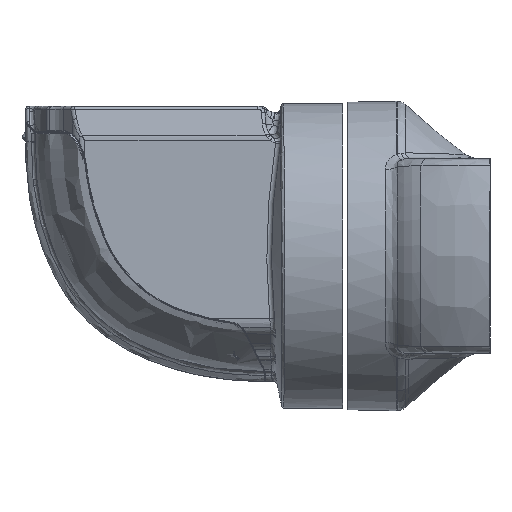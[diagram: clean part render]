
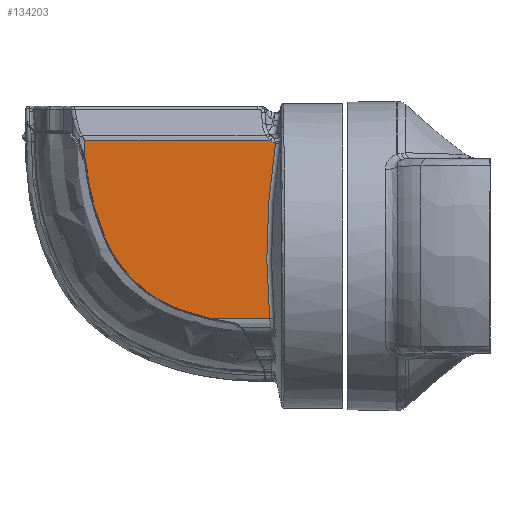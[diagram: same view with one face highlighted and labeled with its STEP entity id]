
A CAD part, left-side view. The second image highlights one B-rep face of the part: STEP entity #134203.
In plain terms, the highlighted planar face has unit normal (-1, 0.009, 0) as drawn and (-0.009, 0, -1) by its records, which use the part's own axes.
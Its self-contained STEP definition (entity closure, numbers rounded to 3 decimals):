
#245 = EDGE_CURVE ( 'NONE', #60284, #105095, #190459, .T. ) ;
#11617 = CARTESIAN_POINT ( 'NONE',  ( 104.904, -149.394, -57.552 ) ) ;
#12527 = CARTESIAN_POINT ( 'NONE',  ( 178.538, -159.142, -58.194 ) ) ;
#13042 = EDGE_CURVE ( 'NONE', #60284, #154520, #142292, .T. ) ;
#13594 = CARTESIAN_POINT ( 'NONE',  ( 104.904, -149.394, -57.552 ) ) ;
#14344 = CARTESIAN_POINT ( 'NONE',  ( 104.79, -150.416, -57.551 ) ) ;
#16485 = ORIENTED_EDGE ( 'NONE', *, *, #13042, .T. ) ;
#20677 = B_SPLINE_CURVE_WITH_KNOTS ( 'NONE', 3,
 ( #185219, #102405, #14344, #13594 ),
 .UNSPECIFIED., .F., .F.,
 ( 4, 4 ),
 ( 0., 1. ),
 .UNSPECIFIED. ) ;
#23437 = B_SPLINE_CURVE_WITH_KNOTS ( 'NONE', 3,
 ( #54227, #109352, #176812, #125468 ),
 .UNSPECIFIED., .F., .F.,
 ( 4, 4 ),
 ( 0., 1. ),
 .UNSPECIFIED. ) ;
#26502 = CARTESIAN_POINT ( 'NONE',  ( 104.904, -149.394, -57.552 ) ) ;
#29623 = VERTEX_POINT ( 'NONE', #159320 ) ;
#34391 = ORIENTED_EDGE ( 'NONE', *, *, #39163, .T. ) ;
#37256 = ORIENTED_EDGE ( 'NONE', *, *, #42433, .T. ) ;
#39163 = EDGE_CURVE ( 'NONE', #53485, #183485, #176649, .T. ) ;
#42433 = EDGE_CURVE ( 'NONE', #183485, #92953, #65380, .T. ) ;
#45329 = ORIENTED_EDGE ( 'NONE', *, *, #74760, .F. ) ;
#46865 = DIRECTION ( 'NONE',  ( 1., 0., -0.009 ) ) ;
#49031 = CARTESIAN_POINT ( 'NONE',  ( 150.839, -88.747, -57.953 ) ) ;
#53221 = ORIENTED_EDGE ( 'NONE', *, *, #198066, .T. ) ;
#53485 = VERTEX_POINT ( 'NONE', #54414 ) ;
#54227 = CARTESIAN_POINT ( 'NONE',  ( 141.045, -92.012, -57.867 ) ) ;
#54414 = CARTESIAN_POINT ( 'NONE',  ( 143.055, -91.239, -57.885 ) ) ;
#54930 = CARTESIAN_POINT ( 'NONE',  ( 104.365, -159.142, -57.547 ) ) ;
#60284 = VERTEX_POINT ( 'NONE', #192504 ) ;
#62054 = DIRECTION ( 'NONE',  ( 0., 1., 0. ) ) ;
#65380 = LINE ( 'NONE', #70251, #196992 ) ;
#65902 = CARTESIAN_POINT ( 'NONE',  ( 154.836, -87.795, -57.987 ) ) ;
#67365 = CARTESIAN_POINT ( 'NONE',  ( 148.451, -89.441, -57.932 ) ) ;
#68951 = LINE ( 'NONE', #115038, #71582 ) ;
#69057 = CARTESIAN_POINT ( 'NONE',  ( 180.65, -157.91, -58.213 ) ) ;
#70251 = CARTESIAN_POINT ( 'NONE',  ( 154.836, -87.795, -57.987 ) ) ;
#71582 = VECTOR ( 'NONE', #46865, 1000. ) ;
#71606 = ORIENTED_EDGE ( 'NONE', *, *, #245, .F. ) ;
#74760 = EDGE_CURVE ( 'NONE', #84621, #192216, #68951, .T. ) ;
#77811 = CARTESIAN_POINT ( 'NONE',  ( 183.943, -119.631, -58.241 ) ) ;
#83111 = DIRECTION ( 'NONE',  ( 0., -1., 0. ) ) ;
#83228 = CARTESIAN_POINT ( 'NONE',  ( 128.908, -98.244, -57.761 ) ) ;
#83954 = CARTESIAN_POINT ( 'NONE',  ( 134.702, -94.503, -57.812 ) ) ;
#84621 = VERTEX_POINT ( 'NONE', #54930 ) ;
#84981 = CARTESIAN_POINT ( 'NONE',  ( 148.673, -89.376, -57.934 ) ) ;
#86194 = CARTESIAN_POINT ( 'NONE',  ( 115.149, -113.617, -57.641 ) ) ;
#87062 = LINE ( 'NONE', #115640, #161145 ) ;
#92953 = VERTEX_POINT ( 'NONE', #132612 ) ;
#96391 = EDGE_LOOP ( 'NONE', ( #137867, #108089, #45329, #180582, #53221, #71606, #16485, #149749, #34391, #37256 ) ) ;
#98501 = DIRECTION ( 'NONE',  ( -0.009, 0., -1. ) ) ;
#101916 = CARTESIAN_POINT ( 'NONE',  ( 148.833, -89.33, -57.935 ) ) ;
#102093 = CARTESIAN_POINT ( 'NONE',  ( 179.18, -158.634, -58.2 ) ) ;
#102405 = CARTESIAN_POINT ( 'NONE',  ( 104.613, -151.436, -57.549 ) ) ;
#102636 = CARTESIAN_POINT ( 'NONE',  ( 148.769, -89.348, -57.934 ) ) ;
#104306 = CARTESIAN_POINT ( 'NONE',  ( 178.538, -159.142, -58.194 ) ) ;
#105095 = VERTEX_POINT ( 'NONE', #26502 ) ;
#108089 = ORIENTED_EDGE ( 'NONE', *, *, #215950, .T. ) ;
#109352 = CARTESIAN_POINT ( 'NONE',  ( 141.712, -91.746, -57.873 ) ) ;
#115038 = CARTESIAN_POINT ( 'NONE',  ( 104.365, -159.142, -57.547 ) ) ;
#115640 = CARTESIAN_POINT ( 'NONE',  ( 104.365, -159.142, -57.547 ) ) ;
#117428 = FACE_OUTER_BOUND ( 'NONE', #96391, .T. ) ;
#120207 = CARTESIAN_POINT ( 'NONE',  ( 148.866, -89.32, -57.935 ) ) ;
#120671 = CARTESIAN_POINT ( 'NONE',  ( 141.045, -92.012, -57.867 ) ) ;
#125167 = AXIS2_PLACEMENT_3D ( 'NONE', #77811, #98501, #83111 ) ;
#125468 = CARTESIAN_POINT ( 'NONE',  ( 143.055, -91.239, -57.885 ) ) ;
#132411 = CARTESIAN_POINT ( 'NONE',  ( 154.836, -87.795, -57.987 ) ) ;
#132612 = CARTESIAN_POINT ( 'NONE',  ( 178.309, -87.795, -58.192 ) ) ;
#132624 = CARTESIAN_POINT ( 'NONE',  ( 143.055, -91.239, -57.885 ) ) ;
#134203 = ADVANCED_FACE ( 'NONE', ( #117428 ), #182767, .T. ) ;
#134887 = CARTESIAN_POINT ( 'NONE',  ( 143.982, -90.893, -57.893 ) ) ;
#134993 = EDGE_CURVE ( 'NONE', #84621, #29623, #87062, .T. ) ;
#137081 = DIRECTION ( 'NONE',  ( -0.996, 0.09, 0.009 ) ) ;
#137867 = ORIENTED_EDGE ( 'NONE', *, *, #215093, .T. ) ;
#142292 = B_SPLINE_CURVE_WITH_KNOTS ( 'NONE', 3,
 ( #155947, #86194, #153720, #83228, #83954, #120671 ),
 .UNSPECIFIED., .F., .F.,
 ( 4, 2, 4 ),
 ( 0., 0.504, 1. ),
 .UNSPECIFIED. ) ;
#149749 = ORIENTED_EDGE ( 'NONE', *, *, #175238, .T. ) ;
#152878 = CARTESIAN_POINT ( 'NONE',  ( 141.045, -92.012, -57.867 ) ) ;
#153720 = CARTESIAN_POINT ( 'NONE',  ( 119.071, -107.834, -57.675 ) ) ;
#154520 = VERTEX_POINT ( 'NONE', #152878 ) ;
#155947 = CARTESIAN_POINT ( 'NONE',  ( 112.494, -120.004, -57.618 ) ) ;
#157985 = AXIS2_PLACEMENT_3D ( 'NONE', #170842, #225852, #137081 ) ;
#159320 = CARTESIAN_POINT ( 'NONE',  ( 104.365, -152.434, -57.547 ) ) ;
#161145 = VECTOR ( 'NONE', #62054, 1000. ) ;
#162129 = CIRCLE ( 'NONE', #157985, 284.104 ) ;
#163033 = B_SPLINE_CURVE_WITH_KNOTS ( 'NONE', 3,
 ( #69057, #192421, #102093, #104306 ),
 .UNSPECIFIED., .F., .F.,
 ( 4, 4 ),
 ( 0., 1. ),
 .UNSPECIFIED. ) ;
#170842 = CARTESIAN_POINT ( 'NONE',  ( 461.242, -113.445, -60.661 ) ) ;
#170879 = CARTESIAN_POINT ( 'NONE',  ( 145.407, -90.392, -57.905 ) ) ;
#172356 = CARTESIAN_POINT ( 'NONE',  ( 148.008, -89.573, -57.928 ) ) ;
#175238 = EDGE_CURVE ( 'NONE', #154520, #53485, #23437, .T. ) ;
#176649 = B_SPLINE_CURVE_WITH_KNOTS ( 'NONE', 3,
 ( #132624, #134887, #170879, #204581, #172356, #67365, #84981, #102636, #101916, #120207, #49031, #222927, #65902 ),
 .UNSPECIFIED., .F., .F.,
 ( 4, 1, 1, 1, 1, 1, 2, 2, 4 ),
 ( 0., 0.25, 0.375, 0.437, 0.469, 0.484, 0.492, 0.5, 1. ),
 .UNSPECIFIED. ) ;
#176812 = CARTESIAN_POINT ( 'NONE',  ( 142.382, -91.489, -57.879 ) ) ;
#180582 = ORIENTED_EDGE ( 'NONE', *, *, #134993, .T. ) ;
#182767 = PLANE ( 'NONE',  #125167 ) ;
#183485 = VERTEX_POINT ( 'NONE', #132411 ) ;
#185219 = CARTESIAN_POINT ( 'NONE',  ( 104.365, -152.434, -57.547 ) ) ;
#188078 = CARTESIAN_POINT ( 'NONE',  ( 180.65, -157.91, -58.213 ) ) ;
#190459 = B_SPLINE_CURVE_WITH_KNOTS ( 'NONE', 3,
 ( #220657, #219915, #219160, #11617 ),
 .UNSPECIFIED., .F., .F.,
 ( 4, 4 ),
 ( 0., 1. ),
 .UNSPECIFIED. ) ;
#192216 = VERTEX_POINT ( 'NONE', #12527 ) ;
#192421 = CARTESIAN_POINT ( 'NONE',  ( 179.891, -158.219, -58.206 ) ) ;
#192504 = CARTESIAN_POINT ( 'NONE',  ( 112.494, -120.004, -57.618 ) ) ;
#192854 = DIRECTION ( 'NONE',  ( 1., 0., -0.009 ) ) ;
#196992 = VECTOR ( 'NONE', #192854, 1000. ) ;
#198066 = EDGE_CURVE ( 'NONE', #29623, #105095, #20677, .T. ) ;
#204581 = CARTESIAN_POINT ( 'NONE',  ( 147.131, -89.841, -57.92 ) ) ;
#215093 = EDGE_CURVE ( 'NONE', #92953, #217159, #162129, .T. ) ;
#215950 = EDGE_CURVE ( 'NONE', #217159, #192216, #163033, .T. ) ;
#217159 = VERTEX_POINT ( 'NONE', #188078 ) ;
#219160 = CARTESIAN_POINT ( 'NONE',  ( 106.035, -139.289, -57.562 ) ) ;
#219915 = CARTESIAN_POINT ( 'NONE',  ( 108.59, -129.394, -57.584 ) ) ;
#220657 = CARTESIAN_POINT ( 'NONE',  ( 112.494, -120.004, -57.618 ) ) ;
#222927 = CARTESIAN_POINT ( 'NONE',  ( 152.819, -88.241, -57.97 ) ) ;
#225852 = DIRECTION ( 'NONE',  ( 0.009, 0., 1. ) ) ;
